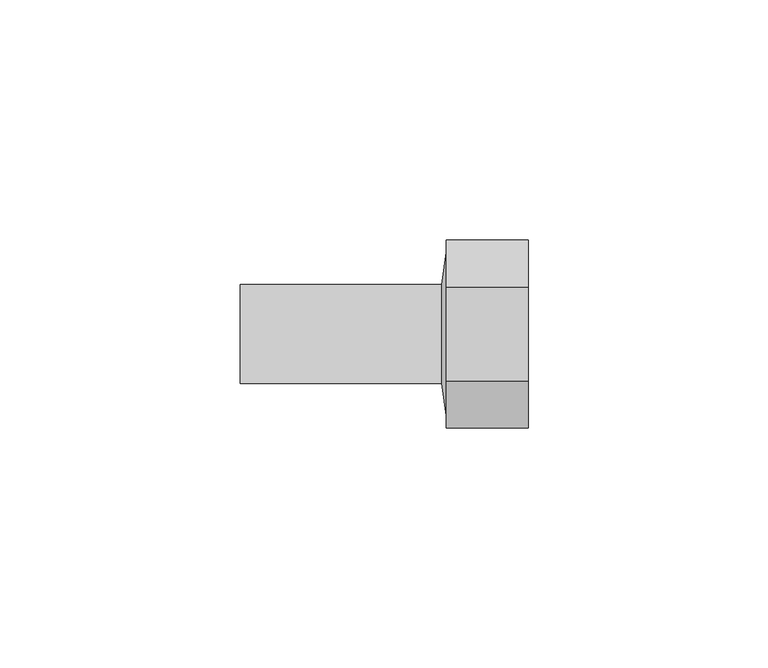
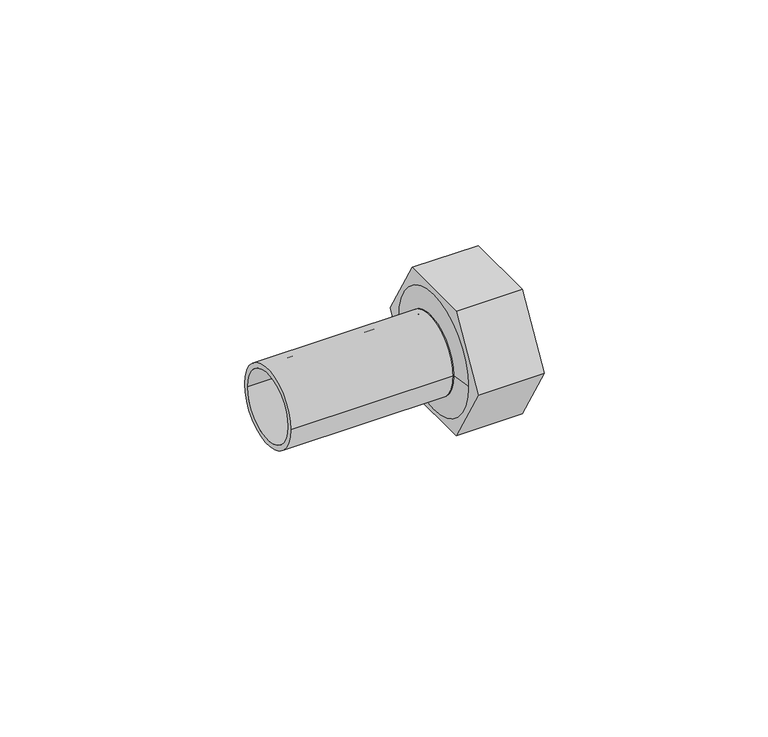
"""IFC4 building model written with IfcOpenShell, lengths in millimetres: pipe fitting geometry, VALTEC_VTi.907.I_Вставка с внутренней резьбой_Нержавеющая сталь : VTi.907.I."""

from ifc_helpers import new_model, si_unit, point, frame, origin, origin_2d, place, context, project, spatial, polyline, circle_curve, trimmed, segment, composite_curve, outline, extrude, source, transform, mapped, element, save
from ifc_brep_helpers import plane_surface, revolved_surface, advanced_brep


def pipe_fitting_779c0b5f(model_context):
    return source(origin(), model_context, "Body", "SolidModel", [
        extrude(outline(polyline([(-19.6299092, 0.0), (-9.8149546, 17.0), (9.8149546, 17.0), (19.6299092, 0.0), (9.8149546, -17.0), (-9.8149546, -17.0), (-19.6299092, 0.0)]), holes=[composite_curve([segment(trimmed(circle_curve(origin_2d(), 12.5), [point((12.5, 0.0))], [point((-12.5, 0.0))], True, "CARTESIAN"), True, "CONTINUOUS"), segment(trimmed(circle_curve(origin_2d(), 12.5), [point((-12.5, 0.0))], [point((12.5, 0.0))], True, "CARTESIAN"), True, "CONTINUOUS")], self_intersect=False)]), frame((-8.5, 0.0, 0.0), z_axis=(1.0, 0.0, 0.0), x_axis=(0.0, 1.0, 0.0)), (0.0, 0.0, 1.0), 17.0),
        advanced_brep(
        [(-8.5, -17.0, 0.0), (-8.5, 17.0, 0.0), (-9.5, -10.35, 0.0), (-9.5, 10.35, 0.0)],
        [
            (0, 1, circle_curve(frame((-8.5, 0.0, 0.0), z_axis=(1.0, 0.0, 0.0), x_axis=(0.0, -1.0, 0.0)), 17.0)),
            (1, 0, circle_curve(frame((-8.5, 0.0, 0.0), z_axis=(1.0, 0.0, 0.0), x_axis=(0.0, 1.0, 0.0)), 17.0)),
            (2, 3, circle_curve(frame((-9.5, 0.0, 0.0), z_axis=(-1.0, 0.0, 0.0), x_axis=(0.0, 1.0, 0.0)), 10.35)),
            (3, 2, circle_curve(frame((-9.5, 0.0, 0.0), z_axis=(-1.0, 0.0, 0.0), x_axis=(0.0, -1.0, 0.0)), 10.35)),
            (3, 1),
            (0, 2),
        ],
        [
            plane_surface(frame((-8.5, 0.0, 0.0), z_axis=(1.0, 0.0, 0.0), x_axis=(0.0, 0.0, -1.0))),
            plane_surface(frame((-9.5, 0.0, 0.0), z_axis=(-1.0, 0.0, 0.0), x_axis=(0.0, 0.0, -1.0))),
            revolved_surface(polyline([(-9.5, 10.35000005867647, 0.0), (-8.5, 17.0, 0.0)]), (-11.056391, 0.0, 0.0), (1.0, 0.0, 0.0)),
            revolved_surface(polyline([(-9.5, -10.35000005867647, 0.0), (-8.5, -17.0, 0.0)]), (-11.056391, 0.0, 0.0), (1.0, 0.0, 0.0)),
        ],
        [
            (0, [[1, 2]]),
            (1, [[3, 4]]),
            (2, [[-4, 5, -1, 6]]),
            (3, [[-3, -6, -2, -5]]),
        ],
    ),
        extrude(outline(composite_curve([segment(trimmed(circle_curve(origin_2d(), 10.35), [point((-10.35, 0.0))], [point((10.35, 0.0))], False, "CARTESIAN"), True, "CONTINUOUS"), segment(trimmed(circle_curve(origin_2d(), 10.35), [point((10.35, 0.0))], [point((-10.35, 0.0))], False, "CARTESIAN"), True, "CONTINUOUS")], self_intersect=False), holes=[composite_curve([segment(trimmed(circle_curve(origin_2d(), 9.0), [point((-9.0, 0.0))], [point((9.0, 0.0))], True, "CARTESIAN"), True, "CONTINUOUS"), segment(trimmed(circle_curve(origin_2d(), 9.0), [point((9.0, 0.0))], [point((-9.0, 0.0))], True, "CARTESIAN"), True, "CONTINUOUS")], self_intersect=False)]), frame((-51.5, 0.0, 0.0), z_axis=(1.0, 0.0, 0.0), x_axis=(0.0, 1.0, 0.0)), (0.0, 0.0, 1.0), 42.0),
    ])


if __name__ == "__main__":
    model = new_model("IFC4")
    model_context = context("Model", 3, world=origin())
    ifc_project = project(units=[si_unit("LENGTHUNIT", "METRE", prefix="MILLI")], contexts=[model_context])
    site = spatial("IfcSite", under=ifc_project)
    building = spatial("IfcBuilding", under=site)
    placement = place(None, origin())
    pipe_fitting_shape = pipe_fitting_779c0b5f(model_context)
    element("IfcPipeFitting", 1, ObjectType="VALTEC_VTi.907.I_Вставка с внутренней резьбой_Нержавеющая сталь : VTi.907.I", at=placement, inside=building, context=model_context, shape_type="MappedRepresentation", body=[
        mapped(pipe_fitting_shape, transform((0.0, 0.0, 0.0), x_axis=(1.0, 0.0, 0.0), y_axis=(0.0, 1.0, 0.0), z_axis=(0.0, 0.0, 1.0))),
    ])
    save(model, "model.ifc")
